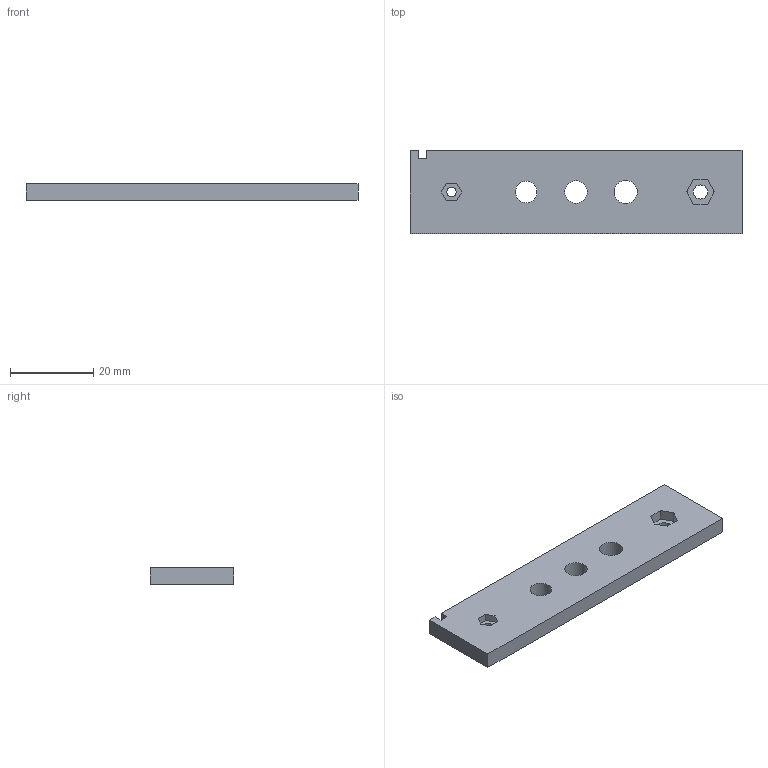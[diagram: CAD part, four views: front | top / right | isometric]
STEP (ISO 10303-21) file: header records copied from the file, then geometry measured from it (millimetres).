
FILE_DESCRIPTION(('Open CASCADE Model'),'2;1');
FILE_NAME('Open CASCADE Shape Model','2026-10-26T16:19:27',('Author'),( 'Open CASCADE'),'Open CASCADE STEP processor 7.8','Open CASCADE 7.8' ,'Unknown');
FILE_SCHEMA(('AUTOMOTIVE_DESIGN { 1 0 10303 214 1 1 1 1 }'));
Length unit declared in the file: millimetre
Products named in the file (1): Open CASCADE STEP translator 7.8 4
Bounding box: 80 x 20 x 4 mm (x, y, z)
Volume: 5985.2 mm3; surface area: 4156.2 mm2
Topology: 1 solids, 1 shells, 29 faces, 75 edges, 50 vertices
Faces by surface type: plane 24, cylinder 5
Full cylindrical faces by diameter (mm): 2.3 x1, 3.4 x1, 5.2 x1, 5.4 x1, 5.6 x1
Entity records: 1844 total; most frequent: CARTESIAN_POINT 345, DIRECTION 255, LINE 165, VECTOR 165, ORIENTED_EDGE 150, PCURVE 150, DEFINITIONAL_REPRESENTATION 150, EDGE_CURVE 75
